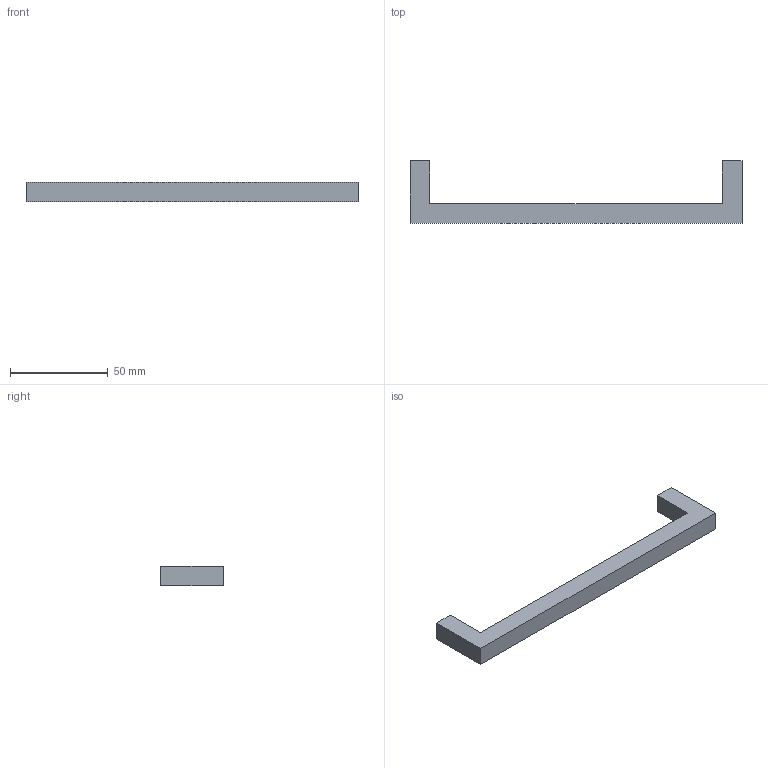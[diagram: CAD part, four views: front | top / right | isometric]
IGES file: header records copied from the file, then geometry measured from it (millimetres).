
Start section: Data from Parasolid IGES Translator 15.0.47, Copyright(c) 2006 Siemens P LM Software. All Rights Reserved.
Global section: file name: 1160019.igs; native system:  By UGS Corp.; preprocessor: XPlus GENERIC/IGES 3.0; author: Noname; organization: Noname; date: 20140122.181804; units: millimetre
Bounding box: 170 x 32 x 10 mm (x, y, z)
Surface area: 9011.3 mm2 (no closed solid volume)
Topology: 0 solids, 0 shells, 14 faces, 60 edges, 58 vertices
Faces by surface type: extrusion 12, revolution 2
